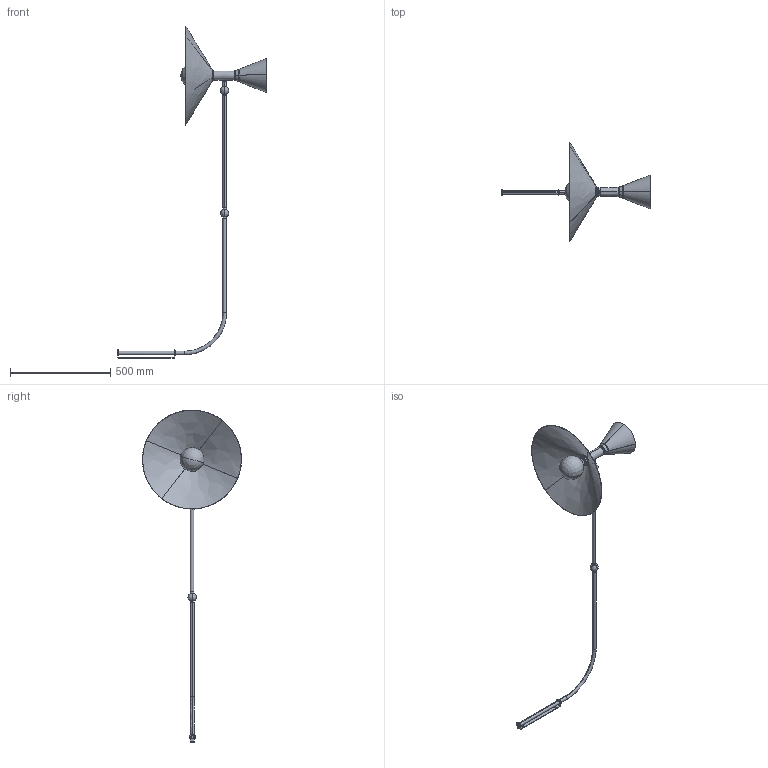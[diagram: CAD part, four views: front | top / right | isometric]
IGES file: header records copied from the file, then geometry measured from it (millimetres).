
Start section: SolidWorks IGES file using analytic representation for surfaces
Global section: file name: C:\Users\tungari.NEMOLIGHTING\Desktop\3D\WALL\3D_LAMPE_DE_MARSEILLEEEE\DEF\3D_LAMPE_DE_MARSEILLE.IGS; native system: SolidWorks 2016; preprocessor: SolidWorks 2016; author: tungari; date: 180312.193829; units: millimetre
Bounding box: 741.49 x 494.58 x 1657.39 mm (x, y, z)
Surface area: 1384808 mm2 (no closed solid volume)
Topology: 0 solids, 0 shells, 338 faces, 5388 edges, 5374 vertices
Faces by surface type: revolution 177, bspline 161
